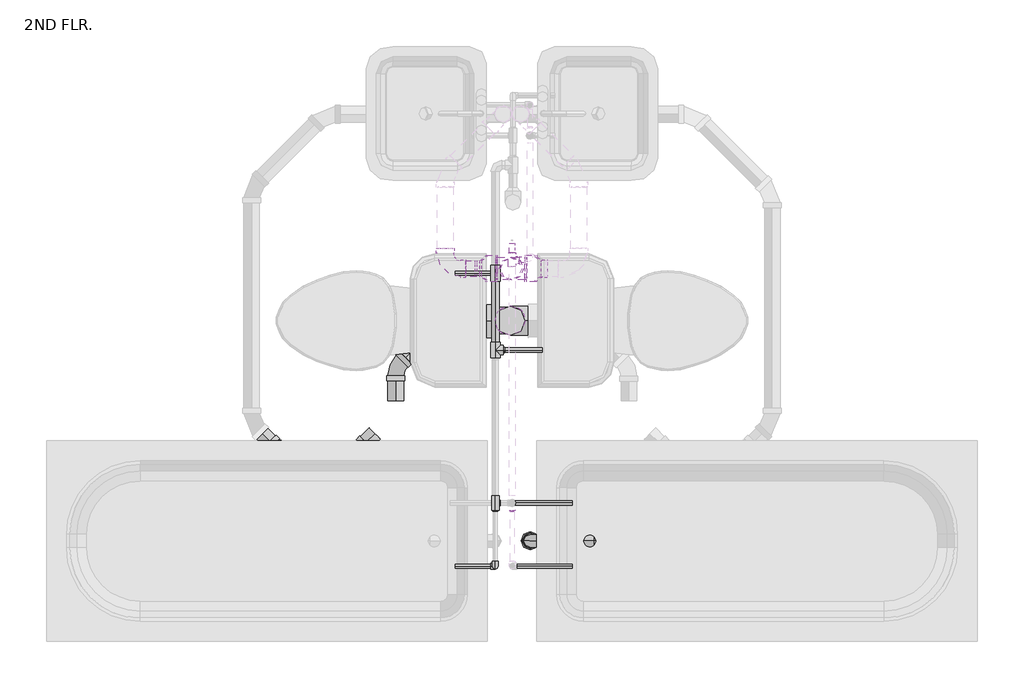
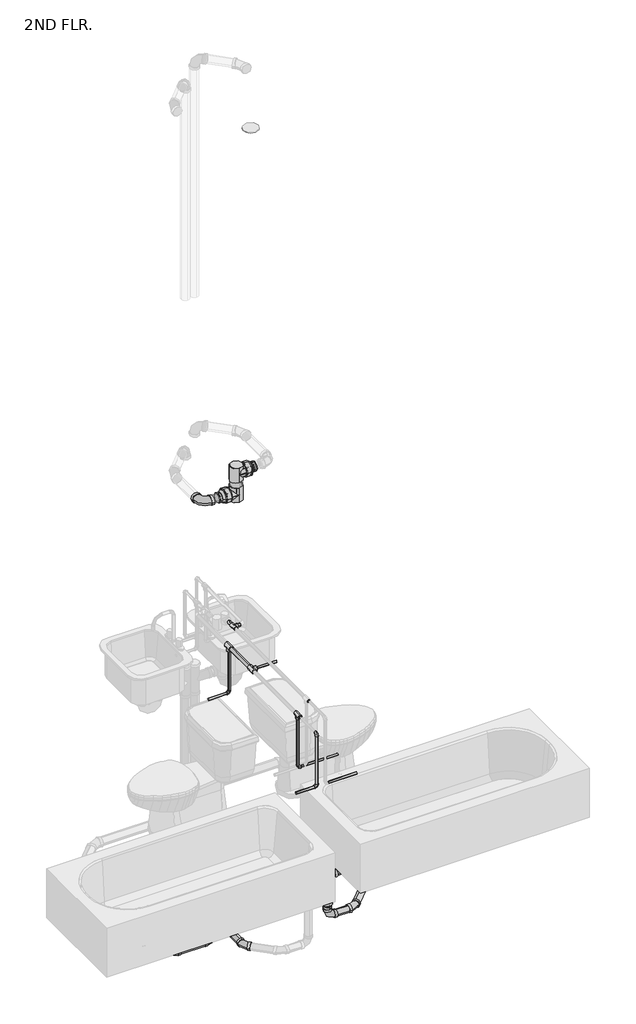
# One storey, part 13 of 15: 38 pipe fittings, 28 pipe segments.
"""IFC4 building model written with IfcOpenShell, lengths in millimetres."""

from ifc_helpers import new_model, si_unit, point, frame, frame_2d, origin, place, context, project, spatial, circle_curve, trimmed, segment, composite_curve, outline, extrude, transform, mapped, element, save
from components import bend_pvc_sch_40_dwv_standard_738aab8b, bend_pvc_sch_40_dwv_standard_e59a9f3a, bend_pvc_sch_40_dwv_standard_c28c2be1, bend_pvc_sch_40_dwv_standard_1eaeee76, bend_pvc_sch_40_dwv_standard_7417f2e3, bend_pvc_sch_40_dwv_standard_1a41d59f, bend_pvc_sch_40_dwv_standard_f64d1520, bend_pvc_sch_40_dwv_standard_b7f24270, pipe_elbow_copper_k_aad62f2d, pipe_tee_copper_k_ee363fbf, pipe_tee_copper_k_feafe2f1, pipe_tee_copper_k_66279296, pipe_tee_standard_eb115f45, pipe_tee_standard_88342a58, pipe_transition_copper_k_859ff352, pipe_transition_copper_k_b63fd5dd, reducer_pvc_sch_40_dwv_standard_f8e5081b, reducer_pvc_sch_40_dwv_standard_58c00515, reducer_pvc_sch_40_dwv_standard_b2b0afcc, reducer_pvc_sch_40_dwv_standard_230e9924, tee_generic_standard_21caa2af

model = new_model("IFC4")

# Units and contexts
model_context = context("Model", 3, world=origin())
ifc_project = project(units=[si_unit("LENGTHUNIT", "METRE", prefix="MILLI")], contexts=[model_context])

# Site, building, storey
site = spatial("IfcSite", under=ifc_project)
building = spatial("IfcBuilding", under=site)
storey = spatial("IfcBuildingStorey", under=building, Name="2ND FLR.", Elevation=2844.8)

# Pipe fittings
placement = place(None, origin())
bend_pvc_sch_40_dwv_standard_shape = bend_pvc_sch_40_dwv_standard_738aab8b(model_context)
element("IfcPipeFitting", 1, ObjectType="Bend - PVC - Sch 40 - DWV : Standard", at=placement, inside=storey, context=model_context, shape_type="MappedRepresentation", body=[
    mapped(bend_pvc_sch_40_dwv_standard_shape, transform((17011.8261339, 6842.0859908, 2762.4996815), x_axis=(0.0, 0.0, 1.0), y_axis=(1.0, 0.0, 0.0), z_axis=(0.0, 1.0, 0.0))),
])
element("IfcPipeFitting", 2, ObjectType="Bend - PVC - Sch 40 - DWV : Standard", at=placement, inside=storey, context=model_context, shape_type="MappedRepresentation", body=[
    mapped(bend_pvc_sch_40_dwv_standard_shape, transform((17011.8261339, 6842.0829061, 2448.8949826), x_axis=(0.0, 0.0, -1.0), y_axis=(1.0, 0.0, 0.0), z_axis=(0.0, -1.0, 0.0))),
])
element("IfcPipeFitting", 3, ObjectType="Bend - PVC - Sch 40 - DWV : Standard", at=placement, inside=storey, context=model_context, shape_type="MappedRepresentation", body=[
    mapped(bend_pvc_sch_40_dwv_standard_shape, transform((17316.6261339, 6842.0859908, 2762.4996815), x_axis=(1.0, 0.0, 0.0), y_axis=(0.0, 0.0, 1.0), z_axis=(0.0, -1.0, 0.0))),
])
bend_pvc_sch_40_dwv_standard_2_shape = bend_pvc_sch_40_dwv_standard_e59a9f3a(model_context)
element("IfcPipeFitting", 4, ObjectType="Bend - PVC - Sch 40 - DWV : Standard", at=placement, inside=storey, context=model_context, shape_type="MappedRepresentation", body=[
    mapped(bend_pvc_sch_40_dwv_standard_2_shape, transform((17210.114944, 6842.0829061, 2448.8949826), x_axis=(1.0, 0.0, 0.0), y_axis=(0.0, 1.0, 0.0), z_axis=(0.0, 0.0, 1.0))),
])
bend_pvc_sch_40_dwv_standard_3_shape = bend_pvc_sch_40_dwv_standard_c28c2be1(model_context)
element("IfcPipeFitting", 5, ObjectType="Bend - PVC - Sch 40 - DWV : Standard", at=placement, inside=storey, context=model_context, shape_type="MappedRepresentation", body=[
    mapped(bend_pvc_sch_40_dwv_standard_3_shape, transform((16500.2806203, 7016.3063561, 2291.2212536), x_axis=(-0.7071067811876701, 0.7071067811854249, 0.0), y_axis=(-0.7071067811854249, -0.7071067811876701, 0.0), z_axis=(0.0, 0.0, 1.0))),
])
bend_pvc_sch_40_dwv_standard_4_shape = bend_pvc_sch_40_dwv_standard_1eaeee76(model_context)
element("IfcPipeFitting", 6, ObjectType="Bend - PVC - Sch 40 - DWV : Standard", at=placement, inside=storey, context=model_context, shape_type="MappedRepresentation", body=[
    mapped(bend_pvc_sch_40_dwv_standard_4_shape, transform((16688.3084875, 7876.8887644, 5130.8), x_axis=(0.0, -0.9999999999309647, 1.1750347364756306e-05), y_axis=(1.0, 0.0, 0.0), z_axis=(0.0, 1.1750347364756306e-05, 0.9999999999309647))),
])
element("IfcPipeFitting", 7, ObjectType="Bend - PVC - Sch 40 - DWV : Standard", at=placement, inside=storey, context=model_context, shape_type="MappedRepresentation", body=[
    mapped(bend_pvc_sch_40_dwv_standard_4_shape, transform((16688.3084875, 7876.8887644, 5130.7990858), x_axis=(0.0, -0.9999999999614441, 8.781345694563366e-06), y_axis=(1.0000000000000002, 0.0, 0.0), z_axis=(0.0, 8.781345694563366e-06, 0.9999999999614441))),
])
bend_pvc_sch_40_dwv_standard_5_shape = bend_pvc_sch_40_dwv_standard_7417f2e3(model_context)
element("IfcPipeFitting", 8, ObjectType="Bend - PVC - Sch 40 - DWV : Standard", at=placement, inside=storey, context=model_context, shape_type="MappedRepresentation", body=[
    mapped(bend_pvc_sch_40_dwv_standard_5_shape, transform((16389.9080231, 7679.2137881, 2290.1699315), x_axis=(-0.9999739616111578, 0.0, -0.0072163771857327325), y_axis=(0.0072163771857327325, 0.0, -0.9999739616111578), z_axis=(0.0, -1.0, 0.0))),
])
bend_pvc_sch_40_dwv_standard_6_shape = bend_pvc_sch_40_dwv_standard_1a41d59f(model_context)
element("IfcPipeFitting", 9, ObjectType="Bend - PVC - Sch 40 - DWV : Standard", at=placement, inside=storey, context=model_context, shape_type="MappedRepresentation", body=[
    mapped(bend_pvc_sch_40_dwv_standard_6_shape, transform((16500.2806203, 7502.8568393, 2291.2212536), x_axis=(0.0, 1.0, 0.0), y_axis=(-0.9999186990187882, 0.0, -0.012751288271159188), z_axis=(-0.012751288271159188, 0.0, 0.9999186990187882))),
])
bend_pvc_sch_40_dwv_standard_7_shape = bend_pvc_sch_40_dwv_standard_f64d1520(model_context)
element("IfcPipeFitting", 10, ObjectType="Bend - PVC - Sch 40 - DWV : Standard", at=placement, inside=storey, context=model_context, shape_type="MappedRepresentation", body=[
    mapped(bend_pvc_sch_40_dwv_standard_7_shape, transform((16061.3759139, 7179.8542465, 2291.1952447), x_axis=(-1.0, 0.0, 0.0), y_axis=(0.0, -1.0, 0.0), z_axis=(0.0, 0.0, 1.0))),
])
bend_pvc_sch_40_dwv_standard_8_shape = bend_pvc_sch_40_dwv_standard_b7f24270(model_context)
element("IfcPipeFitting", 11, ObjectType="Bend - PVC - Sch 40 - DWV : Standard", at=placement, inside=storey, context=model_context, shape_type="MappedRepresentation", body=[
    mapped(bend_pvc_sch_40_dwv_standard_8_shape, transform((16349.8654903, 7179.8542465, 2291.1952447), x_axis=(-0.7071067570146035, -0.7071067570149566, -0.0002614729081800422), y_axis=(0.7071068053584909, -0.7071067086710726, -0.0002614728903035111), z_axis=(0.0, -0.0003697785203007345, 0.9999999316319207))),
])
pipe_elbow_copper_k_shape = pipe_elbow_copper_k_aad62f2d(model_context)
element("IfcPipeFitting", 12, ObjectType="Pipe Elbow : Copper- K", at=placement, inside=storey, context=model_context, shape_type="MappedRepresentation", body=[
    mapped(pipe_elbow_copper_k_shape, transform((16879.2084875, 7859.3528944, 3606.8), x_axis=(0.0, 0.0, -1.0), y_axis=(-1.0, 0.0, 0.0), z_axis=(0.0, 1.0, 0.0))),
])
element("IfcPipeFitting", 13, ObjectType="Pipe Elbow : Copper- K", at=placement, inside=storey, context=model_context, shape_type="MappedRepresentation", body=[
    mapped(pipe_elbow_copper_k_shape, transform((16879.2084875, 6746.0012881, 3962.4), x_axis=(0.0, -1.0, 0.0), y_axis=(0.0, 0.0, -1.0), z_axis=(1.0, 0.0, 0.0))),
])
element("IfcPipeFitting", 14, ObjectType="Pipe Elbow : Copper- K", at=placement, inside=storey, context=model_context, shape_type="MappedRepresentation", body=[
    mapped(pipe_elbow_copper_k_shape, transform((16879.2084875, 6746.0012881, 3556.0), x_axis=(0.0, 0.0, -1.0), y_axis=(-1.0, 0.0, 0.0), z_axis=(0.0, 1.0, 0.0))),
])
element("IfcPipeFitting", 15, ObjectType="Pipe Elbow : Copper- K", at=placement, inside=storey, context=model_context, shape_type="MappedRepresentation", body=[
    mapped(pipe_elbow_copper_k_shape, transform((16879.2084875, 6986.022219, 3556.0), x_axis=(0.0, 0.0, -1.0), y_axis=(1.0, 0.0, 0.0), z_axis=(0.0, -1.0, 0.0))),
])
pipe_tee_copper_k_shape = pipe_tee_copper_k_ee363fbf(model_context)
element("IfcPipeFitting", 16, ObjectType="Pipe Tee : Copper- K", at=placement, inside=storey, context=model_context, shape_type="MappedRepresentation", body=[
    mapped(pipe_tee_copper_k_shape, transform((16942.7084875, 7910.5468309, 4064.0), x_axis=(0.0, 1.0, 0.0), y_axis=(-1.0, 0.0, 0.0), z_axis=(0.0, 0.0, 1.0))),
])
element("IfcPipeFitting", 17, ObjectType="Pipe Tee : Copper- K", at=placement, inside=storey, context=model_context, shape_type="MappedRepresentation", body=[
    mapped(pipe_tee_copper_k_shape, transform((16879.2084875, 6986.022219, 3962.4), x_axis=(0.0, 1.0, 0.0), y_axis=(0.0, 0.0, 1.0), z_axis=(1.0, 0.0, 0.0))),
])
pipe_tee_copper_k_2_shape = pipe_tee_copper_k_feafe2f1(model_context)
element("IfcPipeFitting", 18, ObjectType="Pipe Tee : Copper- K", at=placement, inside=storey, context=model_context, shape_type="MappedRepresentation", body=[
    mapped(pipe_tee_copper_k_2_shape, transform((16879.2084875, 7859.3528944, 3962.4), x_axis=(0.0, 1.0, 0.0), y_axis=(0.0, 0.0, 1.0), z_axis=(1.0, 0.0, 0.0))),
])
element("IfcPipeFitting", 19, ObjectType="Pipe Tee : Copper- K", at=placement, inside=storey, context=model_context, shape_type="MappedRepresentation", body=[
    mapped(pipe_tee_copper_k_2_shape, transform((16879.2084875, 7567.5498426, 3962.4), x_axis=(0.0, 1.0, 0.0), y_axis=(-1.0, 0.0, 0.0), z_axis=(0.0, 0.0, 1.0))),
])
pipe_tee_copper_k_3_shape = pipe_tee_copper_k_66279296(model_context)
element("IfcPipeFitting", 20, ObjectType="Pipe Tee : Copper- K", at=placement, inside=storey, context=model_context, shape_type="MappedRepresentation", body=[
    mapped(pipe_tee_copper_k_3_shape, transform((16935.7559337, 7876.8887644, 5130.8), x_axis=(0.0, 0.0, 1.0), y_axis=(1.0, 0.0, 0.0), z_axis=(0.0, 1.0, 0.0))),
])
element("IfcPipeFitting", 21, ObjectType="Pipe Tee : Standard", at=placement, inside=storey, context=model_context, shape_type="MappedRepresentation", body=[
    mapped(pipe_tee_copper_k_3_shape, transform((16935.7559337, 7876.8887644, 5283.2), x_axis=(0.0, 0.0, 1.0), y_axis=(-1.0, 0.0, 0.0), z_axis=(0.0, -1.0, 0.0))),
])
element("IfcPipeFitting", 22, ObjectType="Pipe Tee : Standard", at=placement, inside=storey, context=model_context, shape_type="MappedRepresentation", body=[
    mapped(pipe_tee_copper_k_3_shape, transform((16942.30848, 7876.8887644, 5130.7990858), x_axis=(0.0, 0.0, 1.0), y_axis=(1.0, 0.0, 0.0), z_axis=(0.0, 1.0, 0.0))),
])
pipe_tee_standard_shape = pipe_tee_standard_eb115f45(model_context)
element("IfcPipeFitting", 23, ObjectType="Pipe Tee : Standard", at=placement, inside=storey, context=model_context, shape_type="MappedRepresentation", body=[
    mapped(pipe_tee_standard_shape, transform((16942.30848, 7876.8887644, 5283.5627068), x_axis=(0.0, 0.0, 1.0), y_axis=(-1.0, 0.0, 0.0), z_axis=(0.0, -1.0, 0.0))),
])
pipe_tee_standard_2_shape = pipe_tee_standard_88342a58(model_context)
element("IfcPipeFitting", 24, ObjectType="Pipe Tee : Standard", at=placement, inside=storey, context=model_context, shape_type="MappedRepresentation", body=[
    mapped(pipe_tee_standard_2_shape, transform((16935.7564013, 7679.2137881, 2451.8581717), x_axis=(-6.991457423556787e-08, 0.0, 0.9999999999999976), y_axis=(-0.9999999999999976, 0.0, -6.991457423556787e-08), z_axis=(0.0, -1.0, 0.0))),
])
pipe_transition_copper_k_shape = pipe_transition_copper_k_859ff352(model_context)
element("IfcPipeFitting", 25, ObjectType="Pipe Transition : Copper- K", at=placement, inside=storey, context=model_context, shape_type="MappedRepresentation", body=[
    mapped(pipe_transition_copper_k_shape, transform((16879.2084875, 6986.022219, 3935.4125), x_axis=(0.0, 0.0, -1.0), y_axis=(0.0, 1.0, 0.0), z_axis=(1.0, 0.0, 0.0))),
])
element("IfcPipeFitting", 26, ObjectType="Pipe Transition : Copper- K", at=placement, inside=storey, context=model_context, shape_type="MappedRepresentation", body=[
    mapped(pipe_transition_copper_k_shape, transform((16942.7084875, 6959.034719, 4064.0), x_axis=(0.0, -1.0, 0.0), y_axis=(1.0, 0.0, 0.0), z_axis=(0.0, 0.0, 1.0))),
])
element("IfcPipeFitting", 27, ObjectType="Pipe Transition : Copper- K", at=placement, inside=storey, context=model_context, shape_type="MappedRepresentation", body=[
    mapped(pipe_transition_copper_k_shape, transform((16879.2084875, 6959.034719, 3962.4), x_axis=(0.0, -1.0, 0.0), y_axis=(1.0, 0.0, 0.0), z_axis=(0.0, 0.0, 1.0))),
])
pipe_transition_copper_k_2_shape = pipe_transition_copper_k_b63fd5dd(model_context)
element("IfcPipeFitting", 28, ObjectType="Pipe Transition : Copper- K", at=placement, inside=storey, context=model_context, shape_type="MappedRepresentation", body=[
    mapped(pipe_transition_copper_k_2_shape, transform((16879.2084875, 7859.3528944, 3932.2375), x_axis=(0.0, 0.0, -1.0), y_axis=(0.0, -1.0, 0.0), z_axis=(-1.0, 0.0, 0.0))),
])
element("IfcPipeFitting", 29, ObjectType="Pipe Transition : Copper- K", at=placement, inside=storey, context=model_context, shape_type="MappedRepresentation", body=[
    mapped(pipe_transition_copper_k_2_shape, transform((16909.3709875, 7567.5498426, 3962.4), x_axis=(1.0, 0.0, 0.0), y_axis=(0.0, 1.0, 0.0), z_axis=(0.0, 0.0, 1.0))),
])
reducer_pvc_sch_40_dwv_standard_shape = reducer_pvc_sch_40_dwv_standard_f8e5081b(model_context)
element("IfcPipeFitting", 30, ObjectType="Reducer - PVC - Sch 40 - DWV : Standard", at=placement, inside=storey, context=model_context, shape_type="MappedRepresentation", body=[
    mapped(reducer_pvc_sch_40_dwv_standard_shape, transform((16991.3184337, 7876.8887644, 5283.2), x_axis=(1.0, 0.0, 0.0), y_axis=(0.0, 1.0, 0.0), z_axis=(0.0, 0.0, 1.0))),
])
element("IfcPipeFitting", 31, ObjectType="Reducer - PVC - Sch 40 - DWV : Standard", at=placement, inside=storey, context=model_context, shape_type="MappedRepresentation", body=[
    mapped(reducer_pvc_sch_40_dwv_standard_shape, transform((16880.1934337, 7876.8887644, 5130.8), x_axis=(-1.0, 0.0, 0.0), y_axis=(0.0, -1.0, 0.0), z_axis=(0.0, 0.0, 1.0))),
])
element("IfcPipeFitting", 32, ObjectType="Reducer - PVC - Sch 40 - DWV : Standard", at=placement, inside=storey, context=model_context, shape_type="MappedRepresentation", body=[
    mapped(reducer_pvc_sch_40_dwv_standard_shape, transform((16886.74598, 7876.8887644, 5130.7990858), x_axis=(-1.0, 0.0, 0.0), y_axis=(0.0, -1.0, 0.0), z_axis=(0.0, 0.0, 1.0))),
])
element("IfcPipeFitting", 33, ObjectType="Reducer - PVC - Sch 40 - DWV : Standard", at=placement, inside=storey, context=model_context, shape_type="MappedRepresentation", body=[
    mapped(reducer_pvc_sch_40_dwv_standard_shape, transform((16997.8709231, 7876.8887644, 5283.4831648), x_axis=(0.9999989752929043, 0.0, -0.001431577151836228), y_axis=(0.0, 1.0000000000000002, 0.0), z_axis=(0.001431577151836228, 0.0, 0.9999989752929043))),
])
reducer_pvc_sch_40_dwv_standard_2_shape = reducer_pvc_sch_40_dwv_standard_58c00515(model_context)
element("IfcPipeFitting", 34, ObjectType="Reducer - PVC - Sch 40 - DWV : Standard", at=placement, inside=storey, context=model_context, shape_type="MappedRepresentation", body=[
    mapped(reducer_pvc_sch_40_dwv_standard_2_shape, transform((16870.6709483, 7679.2137881, 2293.6393884), x_axis=(-0.9999739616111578, 0.0, -0.007216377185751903), y_axis=(-0.007216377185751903, 0.0, 0.9999739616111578), z_axis=(0.0, 1.0, 0.0))),
])
reducer_pvc_sch_40_dwv_standard_3_shape = reducer_pvc_sch_40_dwv_standard_b2b0afcc(model_context)
element("IfcPipeFitting", 35, ObjectType="Reducer - PVC - Sch 40 - DWV : Standard", at=placement, inside=storey, context=model_context, shape_type="MappedRepresentation", body=[
    mapped(reducer_pvc_sch_40_dwv_standard_3_shape, transform((17011.8261339, 6842.0829061, 2510.7947826), x_axis=(0.0, 0.0, 1.0), y_axis=(0.0, 1.0, 0.0), z_axis=(-1.0, 0.0, 0.0))),
])
reducer_pvc_sch_40_dwv_standard_4_shape = reducer_pvc_sch_40_dwv_standard_230e9924(model_context)
element("IfcPipeFitting", 36, ObjectType="Reducer - PVC - Sch 40 - DWV : Standard", at=placement, inside=storey, context=model_context, shape_type="MappedRepresentation", body=[
    mapped(reducer_pvc_sch_40_dwv_standard_4_shape, transform((17011.8261339, 6842.0859908, 2700.5998815), x_axis=(0.0, 0.0, -1.0), y_axis=(0.0, -1.0, 0.0), z_axis=(-1.0, 0.0, 0.0))),
])
element("IfcPipeFitting", 37, ObjectType="Reducer - PVC - Sch 40 - DWV : Standard", at=placement, inside=storey, context=model_context, shape_type="MappedRepresentation", body=[
    mapped(reducer_pvc_sch_40_dwv_standard_4_shape, transform((17316.6261339, 6842.0859908, 2824.3994815), x_axis=(0.0, 0.0, 1.0), y_axis=(-1.0, 0.0, 0.0), z_axis=(0.0, -1.0, 0.0))),
])
tee_generic_standard_shape = tee_generic_standard_21caa2af(model_context)
element("IfcPipeFitting", 38, ObjectType="Tee - Generic : Standard", at=placement, inside=storey, context=model_context, shape_type="MappedRepresentation", body=[
    mapped(tee_generic_standard_shape, transform((16935.7564123, 7679.2137881, 2294.1563689), x_axis=(-6.991457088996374e-08, 0.0, 0.9999999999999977), y_axis=(0.9999999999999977, 0.0, 6.991457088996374e-08), z_axis=(0.0, 1.0, 0.0))),
])

# Pipe segments
element("IfcPipeSegment", 39, ObjectType="Copper", at=placement, inside=storey, context=model_context, shape_type="SweptSolid", body=[
    extrude(outline(composite_curve([segment(trimmed(circle_curve(frame_2d((7910.5468309, 4064.0)), 11.1125), [point((7899.4343309, 4064.0))], [point((7910.5468309, 4075.1125))], False, "CARTESIAN"), True, "CONTINUOUS"), segment(trimmed(circle_curve(frame_2d((7910.5468309, 4064.0)), 11.1125), [point((7910.5468309, 4075.1125))], [point((7921.6593309, 4064.0))], False, "CARTESIAN"), True, "CONTINUOUS"), segment(trimmed(circle_curve(frame_2d((7910.5468309, 4064.0)), 11.1125), [point((7921.6593309, 4064.0))], [point((7910.5468309, 4052.8875))], False, "CARTESIAN"), True, "CONTINUOUS"), segment(trimmed(circle_curve(frame_2d((7910.5468309, 4064.0)), 11.1125), [point((7910.5468309, 4052.8875))], [point((7899.4343309, 4064.0))], False, "CARTESIAN"), True, "CONTINUOUS")], self_intersect=False)), frame((16969.6959875, 0.0, 0.0), z_axis=(1.0, 0.0, 0.0), x_axis=(0.0, 1.0, 0.0)), (0.0, 0.0, 1.0), 20.6375),
])
element("IfcPipeSegment", 40, ObjectType="Copper", at=placement, inside=storey, context=model_context, shape_type="SweptSolid", body=[
    extrude(outline(composite_curve([segment(trimmed(circle_curve(frame_2d((0.0, 11.1125)), 11.1125), [point((11.1125, 11.1125))], [point((0.0, 0.0))], False, "CARTESIAN"), True, "CONTINUOUS"), segment(trimmed(circle_curve(frame_2d((0.0, 11.1125)), 11.1125), [point((0.0, 0.0))], [point((-11.1125001, 11.1125))], False, "CARTESIAN"), True, "CONTINUOUS"), segment(trimmed(circle_curve(frame_2d((0.0, 11.1125)), 11.1125), [point((-11.1125001, 11.1125))], [point((0.0, 22.225))], False, "CARTESIAN"), True, "CONTINUOUS"), segment(trimmed(circle_curve(frame_2d((0.0, 11.1125)), 11.1125), [point((0.0, 22.225))], [point((11.1125, 11.1125))], False, "CARTESIAN"), True, "CONTINUOUS")], self_intersect=False)), frame((16942.7084875, 7937.5343309, 4075.1125), z_axis=(-0.01269963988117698, 0.9999193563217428, 0.0), x_axis=(0.9999193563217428, 0.01269963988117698, 0.0)), (0.0, 0.0, 1.0), 36.798498),
])
element("IfcPipeSegment", 41, ObjectType="Copper", at=placement, inside=storey, context=model_context, shape_type="SweptSolid", body=[
    extrude(outline(composite_curve([segment(trimmed(circle_curve(frame_2d((7859.3528944, 3606.8)), 7.9375), [point((7867.2903944, 3606.8))], [point((7859.3528944, 3598.8625))], False, "CARTESIAN"), True, "CONTINUOUS"), segment(trimmed(circle_curve(frame_2d((7859.3528944, 3606.8)), 7.9375), [point((7859.3528944, 3598.8625))], [point((7851.4153944, 3606.8))], False, "CARTESIAN"), True, "CONTINUOUS"), segment(trimmed(circle_curve(frame_2d((7859.3528944, 3606.8)), 7.9375), [point((7851.4153944, 3606.8))], [point((7859.3528944, 3614.7375))], False, "CARTESIAN"), True, "CONTINUOUS"), segment(trimmed(circle_curve(frame_2d((7859.3528944, 3606.8)), 7.9375), [point((7859.3528944, 3614.7375))], [point((7867.2903944, 3606.8))], False, "CARTESIAN"), True, "CONTINUOUS")], self_intersect=False)), frame((16726.8084875, 0.0, 0.0), z_axis=(1.0, 0.0, 0.0), x_axis=(0.0, 1.0, 0.0)), (0.0, 0.0, 1.0), 134.9375),
])
element("IfcPipeSegment", 42, ObjectType="Copper", at=placement, inside=storey, context=model_context, shape_type="SweptSolid", body=[
    extrude(outline(composite_curve([segment(trimmed(circle_curve(frame_2d((16879.2084875, 7859.3528944)), 7.9375), [point((16887.1459875, 7859.3528944))], [point((16879.2084875, 7851.4153944))], False, "CARTESIAN"), True, "CONTINUOUS"), segment(trimmed(circle_curve(frame_2d((16879.2084875, 7859.3528944)), 7.9375), [point((16879.2084875, 7851.4153944))], [point((16871.2709875, 7859.3528944))], False, "CARTESIAN"), True, "CONTINUOUS"), segment(trimmed(circle_curve(frame_2d((16879.2084875, 7859.3528944)), 7.9375), [point((16871.2709875, 7859.3528944))], [point((16879.2084875, 7867.2903944))], False, "CARTESIAN"), True, "CONTINUOUS"), segment(trimmed(circle_curve(frame_2d((16879.2084875, 7859.3528944)), 7.9375), [point((16879.2084875, 7867.2903944))], [point((16887.1459875, 7859.3528944))], False, "CARTESIAN"), True, "CONTINUOUS")], self_intersect=False)), frame((0.0, 0.0, 3624.2625), z_axis=(0.0, 0.0, 1.0), x_axis=(1.0, 0.0, 0.0)), (0.0, 0.0, 1.0), 300.83125),
])
element("IfcPipeSegment", 43, ObjectType="Copper", at=placement, inside=storey, context=model_context, shape_type="SweptSolid", body=[
    extrude(outline(composite_curve([segment(trimmed(circle_curve(frame_2d((7567.5498426, 3962.4)), 7.9375), [point((7559.6123426, 3962.4))], [point((7567.5498426, 3970.3375))], False, "CARTESIAN"), True, "CONTINUOUS"), segment(trimmed(circle_curve(frame_2d((7567.5498426, 3962.4)), 7.9375), [point((7567.5498426, 3970.3375))], [point((7575.4873426, 3962.4))], False, "CARTESIAN"), True, "CONTINUOUS"), segment(trimmed(circle_curve(frame_2d((7567.5498426, 3962.4)), 7.9375), [point((7575.4873426, 3962.4))], [point((7567.5498426, 3954.4625))], False, "CARTESIAN"), True, "CONTINUOUS"), segment(trimmed(circle_curve(frame_2d((7567.5498426, 3962.4)), 7.9375), [point((7567.5498426, 3954.4625))], [point((7559.6123426, 3962.4))], False, "CARTESIAN"), True, "CONTINUOUS")], self_intersect=False)), frame((16916.5147375, 0.0, 0.0), z_axis=(1.0, 0.0, 0.0), x_axis=(0.0, 1.0, 0.0)), (0.0, 0.0, 1.0), 140.49375),
])
element("IfcPipeSegment", 44, ObjectType="Copper", at=placement, inside=storey, context=model_context, shape_type="SweptSolid", body=[
    extrude(outline(composite_curve([segment(trimmed(circle_curve(frame_2d((3962.4, 16879.2084875)), 14.2875), [point((3962.4, 16864.9209875))], [point((3948.1125, 16879.2084875))], False, "CARTESIAN"), True, "CONTINUOUS"), segment(trimmed(circle_curve(frame_2d((3962.4, 16879.2084875)), 14.2875), [point((3948.1125, 16879.2084875))], [point((3962.4, 16893.4959875))], False, "CARTESIAN"), True, "CONTINUOUS"), segment(trimmed(circle_curve(frame_2d((3962.4, 16879.2084875)), 14.2875), [point((3962.4, 16893.4959875))], [point((3976.6875, 16879.2084875))], False, "CARTESIAN"), True, "CONTINUOUS"), segment(trimmed(circle_curve(frame_2d((3962.4, 16879.2084875)), 14.2875), [point((3976.6875, 16879.2084875))], [point((3962.4, 16864.9209875))], False, "CARTESIAN"), True, "CONTINUOUS")], self_intersect=False)), frame((0.0, 7597.7123426, 0.0), z_axis=(0.0, 1.0, 0.0), x_axis=(0.0, 0.0, 1.0)), (0.0, 0.0, 1.0), 231.4780518),
])
element("IfcPipeSegment", 45, ObjectType="Copper", at=placement, inside=storey, context=model_context, shape_type="SweptSolid", body=[
    extrude(outline(composite_curve([segment(trimmed(circle_curve(frame_2d((6746.0012881, 3556.0)), 7.9375), [point((6738.0637881, 3556.0))], [point((6746.0012881, 3563.9375))], False, "CARTESIAN"), True, "CONTINUOUS"), segment(trimmed(circle_curve(frame_2d((6746.0012881, 3556.0)), 7.9375), [point((6746.0012881, 3563.9375))], [point((6753.9387881, 3556.0))], False, "CARTESIAN"), True, "CONTINUOUS"), segment(trimmed(circle_curve(frame_2d((6746.0012881, 3556.0)), 7.9375), [point((6753.9387881, 3556.0))], [point((6746.0012881, 3548.0625))], False, "CARTESIAN"), True, "CONTINUOUS"), segment(trimmed(circle_curve(frame_2d((6746.0012881, 3556.0)), 7.9375), [point((6746.0012881, 3548.0625))], [point((6738.0637881, 3556.0))], False, "CARTESIAN"), True, "CONTINUOUS")], self_intersect=False)), frame((16960.1709875, 0.0, 0.0), z_axis=(1.0, 0.0, 0.0), x_axis=(0.0, 1.0, 0.0)), (0.0, 0.0, 1.0), 211.1375),
])
element("IfcPipeSegment", 46, ObjectType="Copper", at=placement, inside=storey, context=model_context, shape_type="SweptSolid", body=[
    extrude(outline(composite_curve([segment(trimmed(circle_curve(frame_2d((6746.0012881, 3556.0)), 7.9375), [point((6753.9387881, 3556.0))], [point((6746.0012881, 3548.0625))], False, "CARTESIAN"), True, "CONTINUOUS"), segment(trimmed(circle_curve(frame_2d((6746.0012881, 3556.0)), 7.9375), [point((6746.0012881, 3548.0625))], [point((6738.0637881, 3556.0))], False, "CARTESIAN"), True, "CONTINUOUS"), segment(trimmed(circle_curve(frame_2d((6746.0012881, 3556.0)), 7.9375), [point((6738.0637881, 3556.0))], [point((6746.0012881, 3563.9375))], False, "CARTESIAN"), True, "CONTINUOUS"), segment(trimmed(circle_curve(frame_2d((6746.0012881, 3556.0)), 7.9375), [point((6746.0012881, 3563.9375))], [point((6753.9387881, 3556.0))], False, "CARTESIAN"), True, "CONTINUOUS")], self_intersect=False)), frame((16726.8084875, 0.0, 0.0), z_axis=(1.0, 0.0, 0.0), x_axis=(0.0, 1.0, 0.0)), (0.0, 0.0, 1.0), 134.9375),
])
element("IfcPipeSegment", 47, ObjectType="Copper", at=placement, inside=storey, context=model_context, shape_type="SweptSolid", body=[
    extrude(outline(composite_curve([segment(trimmed(circle_curve(frame_2d((16879.2084875, 6746.0012881)), 7.9375), [point((16887.1459875, 6746.0012881))], [point((16879.2084875, 6738.0637881))], False, "CARTESIAN"), True, "CONTINUOUS"), segment(trimmed(circle_curve(frame_2d((16879.2084875, 6746.0012881)), 7.9375), [point((16879.2084875, 6738.0637881))], [point((16871.2709875, 6746.0012881))], False, "CARTESIAN"), True, "CONTINUOUS"), segment(trimmed(circle_curve(frame_2d((16879.2084875, 6746.0012881)), 7.9375), [point((16871.2709875, 6746.0012881))], [point((16879.2084875, 6753.9387881))], False, "CARTESIAN"), True, "CONTINUOUS"), segment(trimmed(circle_curve(frame_2d((16879.2084875, 6746.0012881)), 7.9375), [point((16879.2084875, 6753.9387881))], [point((16887.1459875, 6746.0012881))], False, "CARTESIAN"), True, "CONTINUOUS")], self_intersect=False)), frame((0.0, 0.0, 3573.4625), z_axis=(0.0, 0.0, 1.0), x_axis=(1.0, 0.0, 0.0)), (0.0, 0.0, 1.0), 371.475),
])
element("IfcPipeSegment", 48, ObjectType="Copper", at=placement, inside=storey, context=model_context, shape_type="SweptSolid", body=[
    extrude(outline(composite_curve([segment(trimmed(circle_curve(frame_2d((6986.022219, 3556.0)), 7.9375), [point((6978.084719, 3556.0))], [point((6986.022219, 3563.9375))], False, "CARTESIAN"), True, "CONTINUOUS"), segment(trimmed(circle_curve(frame_2d((6986.022219, 3556.0)), 7.9375), [point((6986.022219, 3563.9375))], [point((6993.959719, 3556.0))], False, "CARTESIAN"), True, "CONTINUOUS"), segment(trimmed(circle_curve(frame_2d((6986.022219, 3556.0)), 7.9375), [point((6993.959719, 3556.0))], [point((6986.022219, 3548.0625))], False, "CARTESIAN"), True, "CONTINUOUS"), segment(trimmed(circle_curve(frame_2d((6986.022219, 3556.0)), 7.9375), [point((6986.022219, 3548.0625))], [point((6978.084719, 3556.0))], False, "CARTESIAN"), True, "CONTINUOUS")], self_intersect=False)), frame((16896.6709875, 0.0, 0.0), z_axis=(1.0, 0.0, 0.0), x_axis=(0.0, 1.0, 0.0)), (0.0, 0.0, 1.0), 274.6375),
])
element("IfcPipeSegment", 49, ObjectType="Copper", at=placement, inside=storey, context=model_context, shape_type="SweptSolid", body=[
    extrude(outline(composite_curve([segment(trimmed(circle_curve(frame_2d((16879.2084875, 6986.022219)), 7.9375), [point((16887.1459875, 6986.022219))], [point((16879.2084875, 6978.084719))], False, "CARTESIAN"), True, "CONTINUOUS"), segment(trimmed(circle_curve(frame_2d((16879.2084875, 6986.022219)), 7.9375), [point((16879.2084875, 6978.084719))], [point((16871.2709875, 6986.022219))], False, "CARTESIAN"), True, "CONTINUOUS"), segment(trimmed(circle_curve(frame_2d((16879.2084875, 6986.022219)), 7.9375), [point((16871.2709875, 6986.022219))], [point((16879.2084875, 6993.959719))], False, "CARTESIAN"), True, "CONTINUOUS"), segment(trimmed(circle_curve(frame_2d((16879.2084875, 6986.022219)), 7.9375), [point((16879.2084875, 6993.959719))], [point((16887.1459875, 6986.022219))], False, "CARTESIAN"), True, "CONTINUOUS")], self_intersect=False)), frame((0.0, 0.0, 3573.4625), z_axis=(0.0, 0.0, 1.0), x_axis=(1.0, 0.0, 0.0)), (0.0, 0.0, 1.0), 356.39375),
])
element("IfcPipeSegment", 50, ObjectType="PVC - SAN/STORM", at=placement, inside=storey, context=model_context, shape_type="SweptSolid", body=[
    extrude(outline(composite_curve([segment(trimmed(circle_curve(frame_2d((6842.0829061, 2448.8949826)), 24.13), [point((6817.9529061, 2448.8949826))], [point((6842.0829061, 2473.0249826))], False, "CARTESIAN"), True, "CONTINUOUS"), segment(trimmed(circle_curve(frame_2d((6842.0829061, 2448.8949826)), 24.13), [point((6842.0829061, 2473.0249826))], [point((6866.2129061, 2448.8949826))], False, "CARTESIAN"), True, "CONTINUOUS"), segment(trimmed(circle_curve(frame_2d((6842.0829061, 2448.8949826)), 24.13), [point((6866.2129061, 2448.8949826))], [point((6842.0829061, 2424.7649826))], False, "CARTESIAN"), True, "CONTINUOUS"), segment(trimmed(circle_curve(frame_2d((6842.0829061, 2448.8949826)), 24.13), [point((6842.0829061, 2424.7649826))], [point((6817.9529061, 2448.8949826))], False, "CARTESIAN"), True, "CONTINUOUS")], self_intersect=False)), frame((17073.7259339, 0.0, 0.0), z_axis=(1.0, 0.0, 0.0), x_axis=(0.0, 1.0, 0.0)), (0.0, 0.0, 1.0), 90.3642101),
])
element("IfcPipeSegment", 51, ObjectType="PVC - SAN/STORM", at=placement, inside=storey, context=model_context, shape_type="SweptSolid", body=[
    extrude(outline(composite_curve([segment(trimmed(circle_curve(frame_2d((6842.0859908, 2762.4996815)), 24.13), [point((6817.9559908, 2762.4996815))], [point((6842.0859908, 2786.6296815))], False, "CARTESIAN"), True, "CONTINUOUS"), segment(trimmed(circle_curve(frame_2d((6842.0859908, 2762.4996815)), 24.13), [point((6842.0859908, 2786.6296815))], [point((6866.2159908, 2762.4996815))], False, "CARTESIAN"), True, "CONTINUOUS"), segment(trimmed(circle_curve(frame_2d((6842.0859908, 2762.4996815)), 24.13), [point((6866.2159908, 2762.4996815))], [point((6842.0859908, 2738.3696815))], False, "CARTESIAN"), True, "CONTINUOUS"), segment(trimmed(circle_curve(frame_2d((6842.0859908, 2762.4996815)), 24.13), [point((6842.0859908, 2738.3696815))], [point((6817.9559908, 2762.4996815))], False, "CARTESIAN"), True, "CONTINUOUS")], self_intersect=False)), frame((17073.7259339, 0.0, 0.0), z_axis=(1.0, 0.0, 0.0), x_axis=(0.0, 1.0, 0.0)), (0.0, 0.0, 1.0), 181.0004),
])
element("IfcPipeSegment", 52, ObjectType="PVC - SAN/STORM", at=placement, inside=storey, context=model_context, shape_type="SweptSolid", body=[
    extrude(outline(composite_curve([segment(trimmed(circle_curve(frame_2d((0.0, 30.1625)), 30.1625), [point((-30.1625, 30.1625))], [point((0.0, 60.325))], False, "CARTESIAN"), True, "CONTINUOUS"), segment(trimmed(circle_curve(frame_2d((0.0, 30.1625)), 30.1625), [point((0.0, 60.325))], [point((30.1625, 30.1625))], False, "CARTESIAN"), True, "CONTINUOUS"), segment(trimmed(circle_curve(frame_2d((0.0, 30.1625)), 30.1625), [point((30.1625, 30.1625))], [point((0.0, 0.0))], False, "CARTESIAN"), True, "CONTINUOUS"), segment(trimmed(circle_curve(frame_2d((0.0, 30.1625)), 30.1625), [point((0.0, 0.0))], [point((-30.1625, 30.1625))], False, "CARTESIAN"), True, "CONTINUOUS")], self_intersect=False)), frame((17011.8261339, 6811.9204061, 2560.7830184), z_axis=(0.0, 3.433837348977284e-05, 0.999999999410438), x_axis=(1.0, 0.0, 0.0)), (0.0, 0.0, 1.0), 89.830699),
])
element("IfcPipeSegment", 53, ObjectType="PVC - SAN/STORM", at=placement, inside=storey, context=model_context, shape_type="SweptSolid", body=[
    extrude(outline(composite_curve([segment(trimmed(circle_curve(frame_2d((0.0, -24.13)), 24.13), [point((-24.13, -24.13))], [point((0.0, 0.0))], False, "CARTESIAN"), True, "CONTINUOUS"), segment(trimmed(circle_curve(frame_2d((0.0, -24.13)), 24.13), [point((0.0, 0.0))], [point((24.13, -24.13))], False, "CARTESIAN"), True, "CONTINUOUS"), segment(trimmed(circle_curve(frame_2d((0.0, -24.13)), 24.13), [point((24.13, -24.13))], [point((0.0, -48.26))], False, "CARTESIAN"), True, "CONTINUOUS"), segment(trimmed(circle_curve(frame_2d((0.0, -24.13)), 24.13), [point((0.0, -48.26))], [point((-24.13, -24.13))], False, "CARTESIAN"), True, "CONTINUOUS")], self_intersect=False)), frame((17242.6593921, 6874.6273543, 2424.7649826), z_axis=(0.7071067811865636, 0.7071067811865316, 0.0), x_axis=(0.7071067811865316, -0.7071067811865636, 0.0)), (0.0, 0.0, 1.0), 158.1495157),
])
element("IfcPipeSegment", 54, ObjectType="PVC - SAN/STORM", at=placement, inside=storey, context=model_context, shape_type="SweptSolid", body=[
    extrude(outline(composite_curve([segment(trimmed(circle_curve(frame_2d((0.0, -44.45)), 44.45), [point((0.0, 0.0))], [point((44.45, -44.45))], False, "CARTESIAN"), True, "CONTINUOUS"), segment(trimmed(circle_curve(frame_2d((0.0, -44.45)), 44.45), [point((44.45, -44.45))], [point((0.0, -88.9))], False, "CARTESIAN"), True, "CONTINUOUS"), segment(trimmed(circle_curve(frame_2d((0.0, -44.45)), 44.45), [point((0.0, -88.9))], [point((-44.45, -44.45))], False, "CARTESIAN"), True, "CONTINUOUS"), segment(trimmed(circle_curve(frame_2d((0.0, -44.45)), 44.45), [point((-44.45, -44.45))], [point((0.0, 0.0))], False, "CARTESIAN"), True, "CONTINUOUS")], self_intersect=False)), frame((16736.9609983, 7723.6637881, 2292.6744619), z_axis=(0.9999739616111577, 0.0, 0.007216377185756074), x_axis=(0.007216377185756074, 0.0, -0.9999739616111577)), (0.0, 0.0, 1.0), 27.3382317),
])
element("IfcPipeSegment", 55, ObjectType="PVC - SAN/STORM", at=placement, inside=storey, context=model_context, shape_type="SweptSolid", body=[
    extrude(outline(composite_curve([segment(trimmed(circle_curve(frame_2d((16389.9080231, 7679.2137881)), 44.45), [point((16345.4580231, 7679.2137881))], [point((16389.9080231, 7723.6637881))], False, "CARTESIAN"), True, "CONTINUOUS"), segment(trimmed(circle_curve(frame_2d((16389.9080231, 7679.2137881)), 44.45), [point((16389.9080231, 7723.6637881))], [point((16434.3580231, 7679.2137881))], False, "CARTESIAN"), True, "CONTINUOUS"), segment(trimmed(circle_curve(frame_2d((16389.9080231, 7679.2137881)), 44.45), [point((16434.3580231, 7679.2137881))], [point((16389.9080231, 7634.7637881))], False, "CARTESIAN"), True, "CONTINUOUS"), segment(trimmed(circle_curve(frame_2d((16389.9080231, 7679.2137881)), 44.45), [point((16389.9080231, 7634.7637881))], [point((16345.4580231, 7679.2137881))], False, "CARTESIAN"), True, "CONTINUOUS")], self_intersect=False)), frame((0.0, 0.0, 2406.0701315), z_axis=(0.0, 0.0, 1.0), x_axis=(1.0, 0.0, 0.0)), (0.0, 0.0, 1.0), 438.7298685),
])
element("IfcPipeSegment", 56, ObjectType="PVC - SAN/STORM", at=placement, inside=storey, context=model_context, shape_type="SweptSolid", body=[
    extrude(outline(composite_curve([segment(trimmed(circle_curve(frame_2d((0.0, -30.1625)), 30.1625), [point((-30.1625, -30.1625))], [point((0.0, 0.0))], False, "CARTESIAN"), True, "CONTINUOUS"), segment(trimmed(circle_curve(frame_2d((0.0, -30.1625)), 30.1625), [point((0.0, 0.0))], [point((30.1625, -30.1625))], False, "CARTESIAN"), True, "CONTINUOUS"), segment(trimmed(circle_curve(frame_2d((0.0, -30.1625)), 30.1625), [point((30.1625, -30.1625))], [point((0.0, -60.325))], False, "CARTESIAN"), True, "CONTINUOUS"), segment(trimmed(circle_curve(frame_2d((0.0, -30.1625)), 30.1625), [point((0.0, -60.325))], [point((-30.1625, -30.1625))], False, "CARTESIAN"), True, "CONTINUOUS")], self_intersect=False)), frame((16537.3316508, 7539.9078698, 2261.5312404), z_axis=(0.7071067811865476, 0.7071067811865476, 0.0), x_axis=(0.7071067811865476, -0.7071067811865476, 0.0)), (0.0, 0.0, 1.0), 60.4830776),
])
element("IfcPipeSegment", 57, ObjectType="PVC - SAN/STORM", at=placement, inside=storey, context=model_context, shape_type="SweptSolid", body=[
    extrude(outline(composite_curve([segment(trimmed(circle_curve(frame_2d((0.0, 44.45)), 44.45), [point((0.0, 0.0))], [point((-44.45, 44.45))], False, "CARTESIAN"), True, "CONTINUOUS"), segment(trimmed(circle_curve(frame_2d((0.0, 44.45)), 44.45), [point((-44.45, 44.45))], [point((0.0, 88.9))], False, "CARTESIAN"), True, "CONTINUOUS"), segment(trimmed(circle_curve(frame_2d((0.0, 44.45)), 44.45), [point((0.0, 88.9))], [point((44.4499999, 44.45))], False, "CARTESIAN"), True, "CONTINUOUS"), segment(trimmed(circle_curve(frame_2d((0.0, 44.45)), 44.45), [point((44.4499999, 44.45))], [point((0.0, 0.0))], False, "CARTESIAN"), True, "CONTINUOUS")], self_intersect=False)), frame((16505.8052053, 7634.7637881, 2291.006311), z_axis=(0.9999739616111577, 0.0, 0.007216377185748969), x_axis=(0.007216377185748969, 0.0, -0.9999739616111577)), (0.0, 0.0, 1.0), 25.406322),
])
element("IfcPipeSegment", 58, ObjectType="PVC - SAN/STORM", at=placement, inside=storey, context=model_context, shape_type="SweptSolid", body=[
    extrude(outline(composite_curve([segment(trimmed(circle_curve(frame_2d((0.0, -24.13)), 24.13), [point((0.0, 0.0))], [point((24.13, -24.13))], False, "CARTESIAN"), True, "CONTINUOUS"), segment(trimmed(circle_curve(frame_2d((0.0, -24.13)), 24.13), [point((24.13, -24.13))], [point((0.0, -48.26))], False, "CARTESIAN"), True, "CONTINUOUS"), segment(trimmed(circle_curve(frame_2d((0.0, -24.13)), 24.13), [point((0.0, -48.26))], [point((-24.13, -24.13))], False, "CARTESIAN"), True, "CONTINUOUS"), segment(trimmed(circle_curve(frame_2d((0.0, -24.13)), 24.13), [point((-24.13, -24.13))], [point((0.0, 0.0))], False, "CARTESIAN"), True, "CONTINUOUS")], self_intersect=False)), frame((16476.1506203, 7062.3311561, 2291.2212536), z_axis=(-2.0643136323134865e-12, 1.0, 0.0), x_axis=(0.0, 0.0, -1.0)), (0.0, 0.0, 1.0), 150.9124829),
])
element("IfcPipeSegment", 59, ObjectType="PVC - SAN/STORM", at=placement, inside=storey, context=model_context, shape_type="SweptSolid", body=[
    extrude(outline(composite_curve([segment(trimmed(circle_curve(frame_2d((0.0, -30.1625)), 30.1625), [point((-30.1625, -30.1625))], [point((0.0, 0.0))], False, "CARTESIAN"), True, "CONTINUOUS"), segment(trimmed(circle_curve(frame_2d((0.0, -30.1625)), 30.1625), [point((0.0, 0.0))], [point((30.1625, -30.1625))], False, "CARTESIAN"), True, "CONTINUOUS"), segment(trimmed(circle_curve(frame_2d((0.0, -30.1625)), 30.1625), [point((30.1625, -30.1625))], [point((0.0, -60.325))], False, "CARTESIAN"), True, "CONTINUOUS"), segment(trimmed(circle_curve(frame_2d((0.0, -30.1625)), 30.1625), [point((0.0, -60.325))], [point((-30.1625, -30.1625))], False, "CARTESIAN"), True, "CONTINUOUS")], self_intersect=False)), frame((16020.9647614, 7220.2653991, 2261.0327447), z_axis=(-0.7071067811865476, 0.7071067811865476, 0.0), x_axis=(0.7071067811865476, 0.7071067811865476, 0.0)), (0.0, 0.0, 1.0), 40.8647908),
])
element("IfcPipeSegment", 60, ObjectType="PVC - SAN/STORM", at=placement, inside=storey, context=model_context, shape_type="SweptSolid", body=[
    extrude(outline(composite_curve([segment(trimmed(circle_curve(frame_2d((7179.8542465, 2291.1952447)), 30.1625), [point((7149.6917465, 2291.1952447))], [point((7179.8542465, 2321.3577447))], False, "CARTESIAN"), True, "CONTINUOUS"), segment(trimmed(circle_curve(frame_2d((7179.8542465, 2291.1952447)), 30.1625), [point((7179.8542465, 2321.3577447))], [point((7210.0167465, 2291.1952447))], False, "CARTESIAN"), True, "CONTINUOUS"), segment(trimmed(circle_curve(frame_2d((7179.8542465, 2291.1952447)), 30.1625), [point((7210.0167465, 2291.1952447))], [point((7179.8542465, 2261.0327447))], False, "CARTESIAN"), True, "CONTINUOUS"), segment(trimmed(circle_curve(frame_2d((7179.8542465, 2291.1952447)), 30.1625), [point((7179.8542465, 2261.0327447))], [point((7149.6917465, 2291.1952447))], False, "CARTESIAN"), True, "CONTINUOUS")], self_intersect=False)), frame((16118.5259139, 0.0, 0.0), z_axis=(1.0, 0.0, 0.0), x_axis=(0.0, 1.0, 0.0)), (0.0, 0.0, 1.0), 178.9393764),
])
element("IfcPipeSegment", 61, ObjectType="PVC - SAN/STORM", at=placement, inside=storey, context=model_context, shape_type="SweptSolid", body=[
    extrude(outline(composite_curve([segment(trimmed(circle_curve(frame_2d((0.0, -30.1625)), 30.1625), [point((-30.1624989, -30.1546133))], [point((0.0078867, -1e-06))], False, "CARTESIAN"), True, "CONTINUOUS"), segment(trimmed(circle_curve(frame_2d((0.0, -30.1625)), 30.1625), [point((0.0078867, -1e-06))], [point((30.162499, -30.1703866))], False, "CARTESIAN"), True, "CONTINUOUS"), segment(trimmed(circle_curve(frame_2d((0.0, -30.1625)), 30.1625), [point((30.162499, -30.1703866))], [point((-0.0078866, -60.324999))], False, "CARTESIAN"), True, "CONTINUOUS"), segment(trimmed(circle_curve(frame_2d((0.0, -30.1625)), 30.1625), [point((-0.0078866, -60.324999))], [point((-30.1624989, -30.1546133))], False, "CARTESIAN"), True, "CONTINUOUS")], self_intersect=False)), frame((16386.9180258, 7216.9179355, 2261.046448), z_axis=(0.7071067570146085, 0.7071067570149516, 0.0002614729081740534), x_axis=(0.7071068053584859, -0.7071067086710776, -0.0002614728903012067)), (0.0, 0.0, 1.0), 47.0706389),
])
element("IfcPipeSegment", 62, ObjectType="PVC - SAN/STORM", at=placement, inside=storey, context=model_context, shape_type="SweptSolid", body=[
    extrude(outline(composite_curve([segment(trimmed(circle_curve(frame_2d((2291.2212536, 16500.2806203)), 30.1625), [point((2291.2212536, 16470.1181203))], [point((2261.0587536, 16500.2806203))], False, "CARTESIAN"), True, "CONTINUOUS"), segment(trimmed(circle_curve(frame_2d((2291.2212536, 16500.2806203)), 30.1625), [point((2261.0587536, 16500.2806203))], [point((2291.2212536, 16530.4431203))], False, "CARTESIAN"), True, "CONTINUOUS"), segment(trimmed(circle_curve(frame_2d((2291.2212536, 16500.2806203)), 30.1625), [point((2291.2212536, 16530.4431203))], [point((2321.3837536, 16500.2806203))], False, "CARTESIAN"), True, "CONTINUOUS"), segment(trimmed(circle_curve(frame_2d((2291.2212536, 16500.2806203)), 30.1625), [point((2321.3837536, 16500.2806203))], [point((2291.2212536, 16470.1181203))], False, "CARTESIAN"), True, "CONTINUOUS")], self_intersect=False)), frame((0.0, 7374.4375952, 0.0), z_axis=(0.0, 1.0, 0.0), x_axis=(0.0, 0.0, 1.0)), (0.0, 0.0, 1.0), 76.0190441),
])
element("IfcPipeSegment", 63, ObjectType="PVC - SAN/STORM", at=placement, inside=storey, context=model_context, shape_type="SweptSolid", body=[
    extrude(outline(composite_curve([segment(trimmed(circle_curve(frame_2d((7876.8887644, 5130.8)), 30.1625), [point((7907.0512644, 5130.8))], [point((7876.8887644, 5100.6375))], False, "CARTESIAN"), True, "CONTINUOUS"), segment(trimmed(circle_curve(frame_2d((7876.8887644, 5130.8)), 30.1625), [point((7876.8887644, 5100.6375))], [point((7846.7262644, 5130.8))], False, "CARTESIAN"), True, "CONTINUOUS"), segment(trimmed(circle_curve(frame_2d((7876.8887644, 5130.8)), 30.1625), [point((7846.7262644, 5130.8))], [point((7876.8887644, 5160.9625))], False, "CARTESIAN"), True, "CONTINUOUS"), segment(trimmed(circle_curve(frame_2d((7876.8887644, 5130.8)), 30.1625), [point((7876.8887644, 5160.9625))], [point((7907.0512644, 5130.8))], False, "CARTESIAN"), True, "CONTINUOUS")], self_intersect=False)), frame((16766.1086875, 0.0, 0.0), z_axis=(1.0, 0.0, 0.0), x_axis=(0.0, 1.0, 0.0)), (0.0, 0.0, 1.0), 34.7097462),
])
element("IfcPipeSegment", 64, ObjectType="PVC - SAN/STORM", at=placement, inside=storey, context=model_context, shape_type="SweptSolid", body=[
    extrude(outline(composite_curve([segment(trimmed(circle_curve(frame_2d((7876.8887644, 5130.7990858)), 30.1625), [point((7846.7262644, 5130.7990858))], [point((7876.8887644, 5160.9615858))], False, "CARTESIAN"), True, "CONTINUOUS"), segment(trimmed(circle_curve(frame_2d((7876.8887644, 5130.7990858)), 30.1625), [point((7876.8887644, 5160.9615858))], [point((7907.0512644, 5130.7990858))], False, "CARTESIAN"), True, "CONTINUOUS"), segment(trimmed(circle_curve(frame_2d((7876.8887644, 5130.7990858)), 30.1625), [point((7907.0512644, 5130.7990858))], [point((7876.8887644, 5100.6365858))], False, "CARTESIAN"), True, "CONTINUOUS"), segment(trimmed(circle_curve(frame_2d((7876.8887644, 5130.7990858)), 30.1625), [point((7876.8887644, 5100.6365858))], [point((7846.7262644, 5130.7990858))], False, "CARTESIAN"), True, "CONTINUOUS")], self_intersect=False)), frame((16766.1086875, 0.0, 0.0), z_axis=(1.0, 0.0, 0.0), x_axis=(0.0, 1.0, 0.0)), (0.0, 0.0, 1.0), 41.2622926),
])
element("IfcPipeSegment", 65, ObjectType="PVC - SAN/STORM", at=placement, inside=storey, context=model_context, shape_type="SweptSolid", body=[
    extrude(outline(composite_curve([segment(trimmed(circle_curve(frame_2d((16942.30848, 7876.8887644)), 44.45), [point((16897.85848, 7876.8887644))], [point((16942.30848, 7921.3387644))], False, "CARTESIAN"), True, "CONTINUOUS"), segment(trimmed(circle_curve(frame_2d((16942.30848, 7876.8887644)), 44.45), [point((16942.30848, 7921.3387644))], [point((16986.75848, 7876.8887644))], False, "CARTESIAN"), True, "CONTINUOUS"), segment(trimmed(circle_curve(frame_2d((16942.30848, 7876.8887644)), 44.45), [point((16986.75848, 7876.8887644))], [point((16942.30848, 7832.4387644))], False, "CARTESIAN"), True, "CONTINUOUS"), segment(trimmed(circle_curve(frame_2d((16942.30848, 7876.8887644)), 44.45), [point((16942.30848, 7832.4387644))], [point((16897.85848, 7876.8887644))], False, "CARTESIAN"), True, "CONTINUOUS")], self_intersect=False)), frame((0.0, 0.0, 5186.3615858), z_axis=(0.0, 0.0, 1.0), x_axis=(1.0, 0.0, 0.0)), (0.0, 0.0, 1.0), 41.638621),
])
element("IfcPipeSegment", 66, ObjectType="PVC - SAN/STORM", at=placement, inside=storey, context=model_context, shape_type="SweptSolid", body=[
    extrude(outline(composite_curve([segment(trimmed(circle_curve(frame_2d((0.0, 57.15)), 57.15), [point((-57.15, 57.15))], [point((0.0, 114.3))], False, "CARTESIAN"), True, "CONTINUOUS"), segment(trimmed(circle_curve(frame_2d((0.0, 57.15)), 57.15), [point((0.0, 114.3))], [point((57.15, 57.15))], False, "CARTESIAN"), True, "CONTINUOUS"), segment(trimmed(circle_curve(frame_2d((0.0, 57.15)), 57.15), [point((57.15, 57.15))], [point((0.0, 0.0))], False, "CARTESIAN"), True, "CONTINUOUS"), segment(trimmed(circle_curve(frame_2d((0.0, 57.15)), 57.15), [point((0.0, 0.0))], [point((-57.15, 57.15))], False, "CARTESIAN"), True, "CONTINUOUS")], self_intersect=False)), frame((16935.7562199, 7622.0637881, 8067.6418684), z_axis=(-2.289267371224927e-06, 0.0, 0.9999999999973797), x_axis=(0.9999999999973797, 0.0, 2.289267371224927e-06)), (0.0, 0.0, 1.0), 5.6010926),
])

save(model, "model.ifc")
